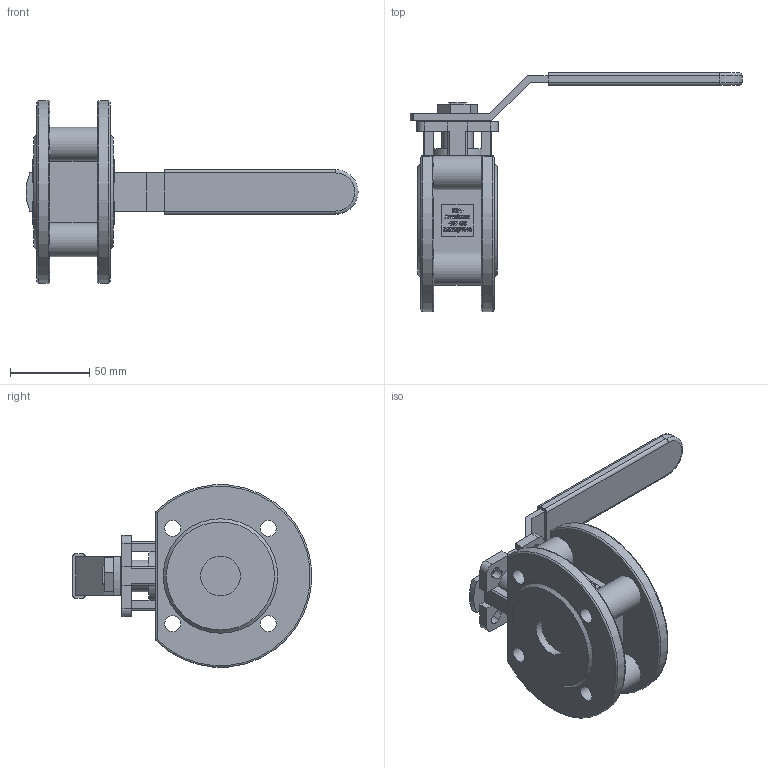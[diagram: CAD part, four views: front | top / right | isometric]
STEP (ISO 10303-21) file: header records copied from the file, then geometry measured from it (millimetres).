
FILE_DESCRIPTION((''),'2;1');
FILE_NAME('K:\Inventor\1 Artikel\12) Flanschen-Kugelhähne\12a) manuell\Econosto\437-GS, 7343\437-GS, DN25\437-GS, DN25, 3D\437-GS, DN25, PN40, HH, 3D.stp','2019-11-11T10:17:34',('claudia'),(''),'Autodesk Inventor 2013','Autodesk Inventor 2013','');
FILE_SCHEMA(('AUTOMOTIVE_DESIGN { 1 0 10303 214 1 1 1 1 }'));
Length unit declared in the file: millimetre
Products named in the file (1): Bauteil3
Bounding box: 208.9 x 150.38 x 114.6 mm (x, y, z)
Volume: 343291.8 mm3; surface area: 74274.8 mm2
Topology: 1 solids, 1 shells, 1283 faces, 3501 edges, 2322 vertices
Faces by surface type: plane 722, bspline 487, cylinder 58, sphere 8, torus 6, cone 2
Full cylindrical faces by diameter (mm): 10.106 x4, 20 x1, 25 x2, 33 x1
Entity records: 45378 total; most frequent: CARTESIAN_POINT 15019, ORIENTED_EDGE 6980, DIRECTION 4243, EDGE_CURVE 3490, VECTOR 2375, LINE 2375, VERTEX_POINT 2321, EDGE_LOOP 1419
